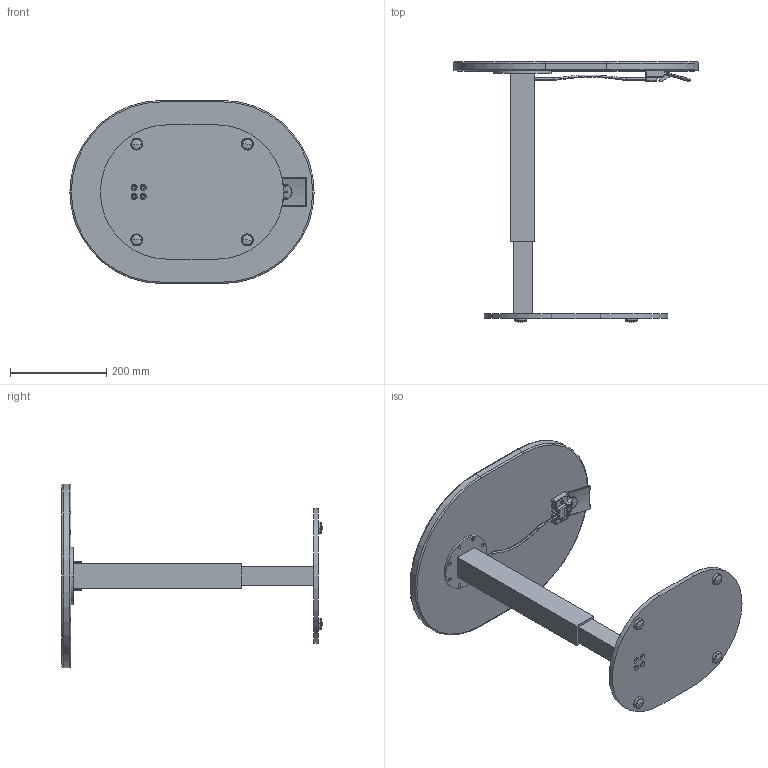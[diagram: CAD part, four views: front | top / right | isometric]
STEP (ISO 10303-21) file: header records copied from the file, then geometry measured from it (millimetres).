
FILE_DESCRIPTION (( 'STEP AP203' ), '1' );
FILE_NAME ('15x20- Racetrack-HT-ADJ._Lowest Position.STEP', '2024-10-30T12:46:21', ( '' ), ( '' ), 'SwSTEP 2.0', 'SolidWorks 2021', '' );
FILE_SCHEMA (( 'CONFIG_CONTROL_DESIGN' ));
Length unit declared in the file: inch
Products named in the file (13): TT-15x20-Core; ALG-SS; Proto laptop STAND; TT-15x20-Lam; Paddle; 15x20- Racetrack-HT-ADJ._Lowest Position; 15x11 Racetrack Base; Short Paddle Shift Cable_Curved; 15x11-RC_Base_Assy.; Paddle Control Base; TT-15x20; Paddle Control; TT-15x20-EB
Assembly tree (15 placements, depth 3):
  15x20- Racetrack-HT-ADJ._Lowest Position
    15x11-RC_Base_Assy.
      15x11 Racetrack Base
      ALG-SS  x4
    Proto laptop STAND
    Paddle Control
      Paddle Control Base
      Paddle
    Short Paddle Shift Cable_Curved
    TT-15x20
      TT-15x20-Core
      TT-15x20-Lam
      TT-15x20-EB
Bounding box: 508 x 541.58 x 381 mm (x, y, z)
Volume: 5109283.7 mm3; surface area: 1097855.3 mm2
Topology: 16 solids, 16 shells, 500 faces, 1152 edges, 673 vertices
Faces by surface type: cylinder 171, plane 145, cone 128, torus 22, bspline 18, sphere 16
Entity records: 12712 total; most frequent: CARTESIAN_POINT 3069, DIRECTION 1779, ORIENTED_EDGE 1654, EDGE_CURVE 827, AXIS2_PLACEMENT_3D 645, VERTEX_POINT 508, LINE 489, VECTOR 489
